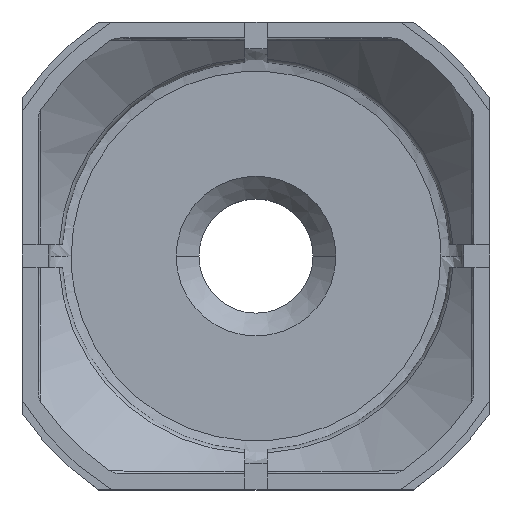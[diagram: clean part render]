
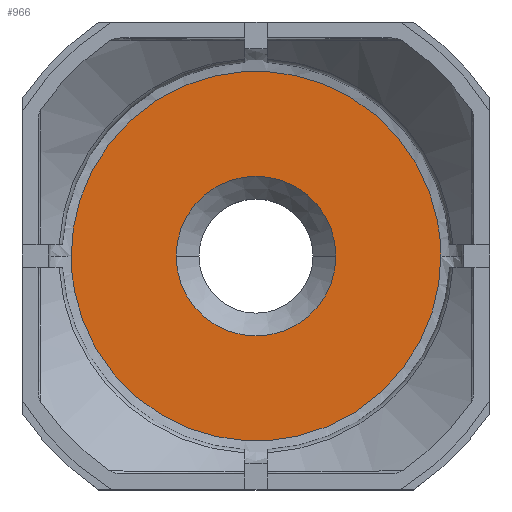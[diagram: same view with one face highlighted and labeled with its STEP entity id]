
A CAD part, top view. The second image highlights one B-rep face of the part: STEP entity #966.
In plain terms, the highlighted planar face has unit normal (0, 0, 1).
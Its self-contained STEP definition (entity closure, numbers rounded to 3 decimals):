
#26 = CARTESIAN_POINT ( 'NONE',  ( 52.44, 29.5, -47.87 ) ) ;
#88 = ORIENTED_EDGE ( 'NONE', *, *, #2390, .F. ) ;
#131 = FACE_BOUND ( 'NONE', #3330, .T. ) ;
#140 = CARTESIAN_POINT ( 'NONE',  ( 64.949, 21.15, -47.87 ) ) ;
#185 = VERTEX_POINT ( 'NONE', #1303 ) ;
#277 = EDGE_CURVE ( 'NONE', #185, #3160, #2356, .T. ) ;
#353 = CARTESIAN_POINT ( 'NONE',  ( 65.482, 37.267, -47.87 ) ) ;
#377 = CARTESIAN_POINT ( 'NONE',  ( 68.56, 29.5, -47.87 ) ) ;
#446 = CARTESIAN_POINT ( 'NONE',  ( 55.518, 21.733, -47.87 ) ) ;
#547 = DIRECTION ( 'NONE',  ( -1., 0., 0. ) ) ;
#651 = DIRECTION ( 'NONE',  ( -1., 0., 0. ) ) ;
#707 =( BOUNDED_CURVE ( )  B_SPLINE_CURVE ( 3, ( #2199, #2259, #140, #3553 ),
 .UNSPECIFIED., .F., .F. ) 
 B_SPLINE_CURVE_WITH_KNOTS ( ( 4, 4 ),
 ( 0., 1. ),
 .UNSPECIFIED. ) 
 CURVE ( )  GEOMETRIC_REPRESENTATION_ITEM ( )  RATIONAL_B_SPLINE_CURVE ( ( 1., 0.79, 0.79, 1. ) ) 
 REPRESENTATION_ITEM ( '' )  );
#727 = EDGE_CURVE ( 'NONE', #3160, #1311, #707, .T. ) ;
#965 = PLANE ( 'NONE',  #4476 ) ;
#966 = ADVANCED_FACE ( 'NONE', ( #131, #4707 ), #965, .F. ) ;
#1303 = CARTESIAN_POINT ( 'NONE',  ( 60.998, 37.544, -47.87 ) ) ;
#1311 = VERTEX_POINT ( 'NONE', #1404 ) ;
#1317 = CARTESIAN_POINT ( 'NONE',  ( 52.44, 29.5, -47.87 ) ) ;
#1392 = CARTESIAN_POINT ( 'NONE',  ( 60.002, 21.456, -47.87 ) ) ;
#1404 = CARTESIAN_POINT ( 'NONE',  ( 60.002, 21.456, -47.87 ) ) ;
#1562 = CARTESIAN_POINT ( 'NONE',  ( 57.017, 29.5, -47.87 ) ) ;
#1994 = CARTESIAN_POINT ( 'NONE',  ( 60.998, 37.544, -47.87 ) ) ;
#2038 = ORIENTED_EDGE ( 'NONE', *, *, #4101, .T. ) ;
#2121 = EDGE_CURVE ( 'NONE', #4010, #2206, #4884, .T. ) ;
#2199 = CARTESIAN_POINT ( 'NONE',  ( 68.56, 29.5, -47.87 ) ) ;
#2206 = VERTEX_POINT ( 'NONE', #4449 ) ;
#2259 = CARTESIAN_POINT ( 'NONE',  ( 68.56, 24.544, -47.87 ) ) ;
#2262 = CARTESIAN_POINT ( 'NONE',  ( 60.5, 29.5, -47.87 ) ) ;
#2323 = CARTESIAN_POINT ( 'NONE',  ( 60.5, 29.5, -47.87 ) ) ;
#2350 = DIRECTION ( 'NONE',  ( 0., 0., -1. ) ) ;
#2356 =( BOUNDED_CURVE ( )  B_SPLINE_CURVE ( 3, ( #1994, #353, #3294, #377 ),
 .UNSPECIFIED., .F., .F. ) 
 B_SPLINE_CURVE_WITH_KNOTS ( ( 4, 4 ),
 ( 0., 1. ),
 .UNSPECIFIED. ) 
 CURVE ( )  GEOMETRIC_REPRESENTATION_ITEM ( )  RATIONAL_B_SPLINE_CURVE ( ( 1., 0.819, 0.819, 1. ) ) 
 REPRESENTATION_ITEM ( '' )  );
#2390 = EDGE_CURVE ( 'NONE', #1311, #4905, #2419, .T. ) ;
#2419 =( BOUNDED_CURVE ( )  B_SPLINE_CURVE ( 3, ( #1392, #446, #2568, #26 ),
 .UNSPECIFIED., .F., .F. ) 
 B_SPLINE_CURVE_WITH_KNOTS ( ( 4, 4 ),
 ( 0., 1. ),
 .UNSPECIFIED. ) 
 CURVE ( )  GEOMETRIC_REPRESENTATION_ITEM ( )  RATIONAL_B_SPLINE_CURVE ( ( 1., 0.819, 0.819, 1. ) ) 
 REPRESENTATION_ITEM ( '' )  );
#2568 = CARTESIAN_POINT ( 'NONE',  ( 52.44, 25.007, -47.87 ) ) ;
#2662 = AXIS2_PLACEMENT_3D ( 'NONE', #2323, #2350, #651 ) ;
#2679 = CARTESIAN_POINT ( 'NONE',  ( 60.5, 29.5, -47.87 ) ) ;
#2691 = ORIENTED_EDGE ( 'NONE', *, *, #4114, .F. ) ;
#2724 = CARTESIAN_POINT ( 'NONE',  ( 68.56, 29.5, -47.87 ) ) ;
#2993 =( BOUNDED_CURVE ( )  B_SPLINE_CURVE ( 3, ( #1317, #5221, #5164, #4805 ),
 .UNSPECIFIED., .F., .F. ) 
 B_SPLINE_CURVE_WITH_KNOTS ( ( 4, 4 ),
 ( 0., 1. ),
 .UNSPECIFIED. ) 
 CURVE ( )  GEOMETRIC_REPRESENTATION_ITEM ( )  RATIONAL_B_SPLINE_CURVE ( ( 1., 0.79, 0.79, 1. ) ) 
 REPRESENTATION_ITEM ( '' )  );
#3047 = DIRECTION ( 'NONE',  ( 0., 0., -1. ) ) ;
#3120 = EDGE_LOOP ( 'NONE', ( #88, #3638, #4465, #2691 ) ) ;
#3160 = VERTEX_POINT ( 'NONE', #2724 ) ;
#3294 = CARTESIAN_POINT ( 'NONE',  ( 68.56, 33.993, -47.87 ) ) ;
#3330 = EDGE_LOOP ( 'NONE', ( #2038, #5105 ) ) ;
#3460 = DIRECTION ( 'NONE',  ( 0., 0., -1. ) ) ;
#3526 = DIRECTION ( 'NONE',  ( -1., 0., 0. ) ) ;
#3553 = CARTESIAN_POINT ( 'NONE',  ( 60.002, 21.456, -47.87 ) ) ;
#3638 = ORIENTED_EDGE ( 'NONE', *, *, #727, .F. ) ;
#3718 = AXIS2_PLACEMENT_3D ( 'NONE', #2262, #3047, #3526 ) ;
#4010 = VERTEX_POINT ( 'NONE', #1562 ) ;
#4101 = EDGE_CURVE ( 'NONE', #2206, #4010, #4594, .T. ) ;
#4114 = EDGE_CURVE ( 'NONE', #4905, #185, #2993, .T. ) ;
#4449 = CARTESIAN_POINT ( 'NONE',  ( 63.983, 29.5, -47.87 ) ) ;
#4465 = ORIENTED_EDGE ( 'NONE', *, *, #277, .F. ) ;
#4476 = AXIS2_PLACEMENT_3D ( 'NONE', #2679, #3460, #547 ) ;
#4594 = CIRCLE ( 'NONE', #3718, 3.483 ) ;
#4707 = FACE_OUTER_BOUND ( 'NONE', #3120, .T. ) ;
#4805 = CARTESIAN_POINT ( 'NONE',  ( 60.998, 37.544, -47.87 ) ) ;
#4817 = CARTESIAN_POINT ( 'NONE',  ( 52.44, 29.5, -47.87 ) ) ;
#4884 = CIRCLE ( 'NONE', #2662, 3.483 ) ;
#4905 = VERTEX_POINT ( 'NONE', #4817 ) ;
#5105 = ORIENTED_EDGE ( 'NONE', *, *, #2121, .T. ) ;
#5164 = CARTESIAN_POINT ( 'NONE',  ( 56.051, 37.85, -47.87 ) ) ;
#5221 = CARTESIAN_POINT ( 'NONE',  ( 52.44, 34.456, -47.87 ) ) ;
